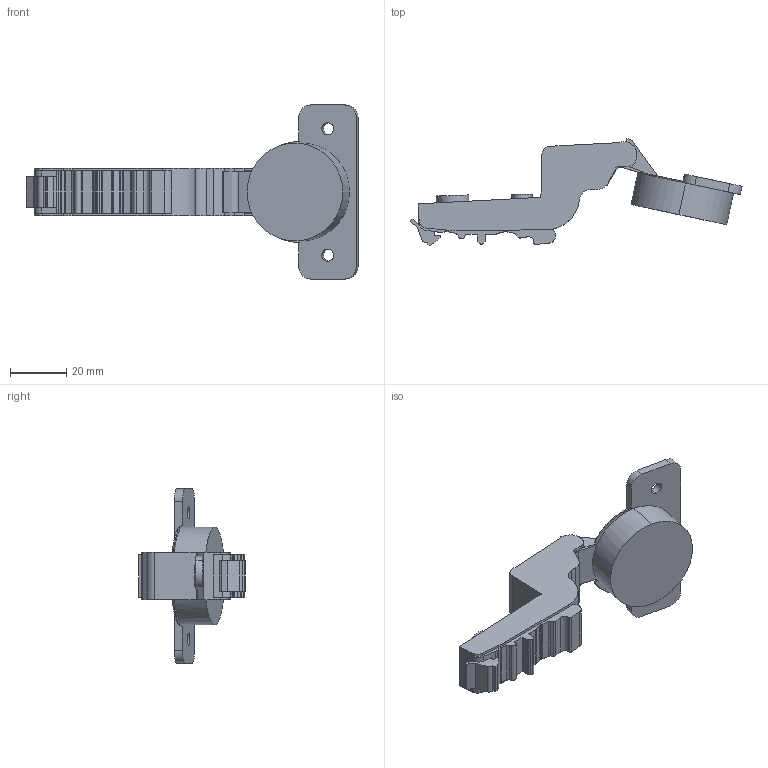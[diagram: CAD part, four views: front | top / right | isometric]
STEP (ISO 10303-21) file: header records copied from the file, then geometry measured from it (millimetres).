
FILE_DESCRIPTION (( 'STEP AP214' ), '1' );
FILE_NAME ('C82C675FA-Open.STEP', '2025-07-21T05:58:07', ( '微软用户' ), ( '微软中国' ), 'SwSTEP 2.0', 'SolidWorks 2021', '' );
FILE_SCHEMA (( 'AUTOMOTIVE_DESIGN' ));
Length unit declared in the file: millimetre
Products named in the file (1): C82C675FA-Open
Bounding box: 118.16 x 38.06 x 61.96 mm (x, y, z)
Volume: 36217.8 mm3; surface area: 11770.3 mm2
Topology: 1 solids, 1 shells, 156 faces, 465 edges, 311 vertices
Faces by surface type: plane 79, cylinder 77
Entity records: 5342 total; most frequent: CARTESIAN_POINT 966, ORIENTED_EDGE 930, DIRECTION 927, EDGE_CURVE 465, AXIS2_PLACEMENT_3D 316, VERTEX_POINT 311, LINE 295, VECTOR 295
